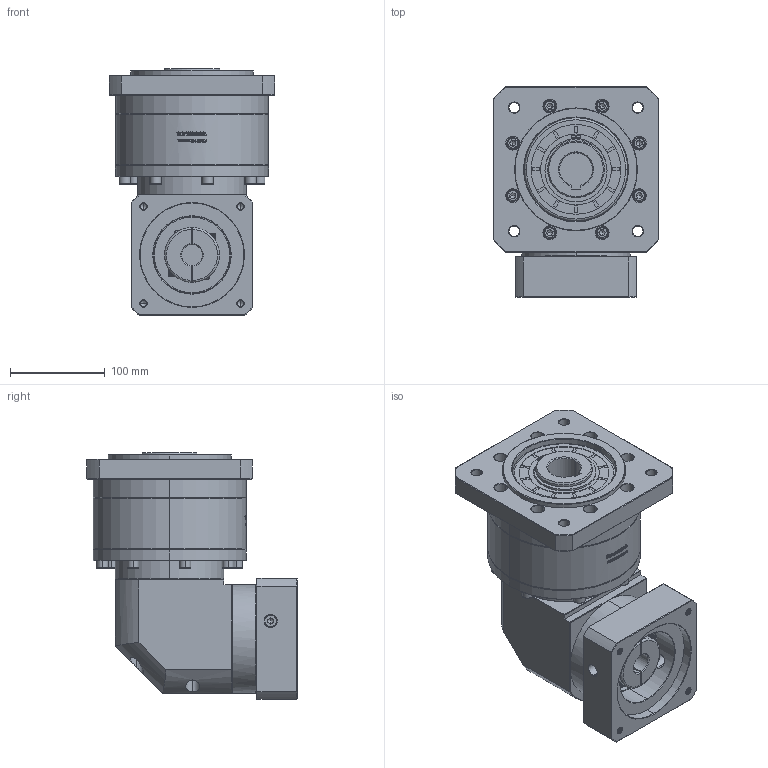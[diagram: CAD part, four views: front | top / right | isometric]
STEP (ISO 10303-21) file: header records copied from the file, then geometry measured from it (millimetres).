
FILE_DESCRIPTION (( 'STEP AP214' ), '1' );
FILE_NAME ('ZFR160A-K35-L2-22-110-145-M8.step', '2023-03-25T01:58:44', ( '' ), ( '' ), 'SwSTEP 2.0', 'SolidWorks 2016', '' );
FILE_SCHEMA (( 'AUTOMOTIVE_DESIGN' ));
Length unit declared in the file: millimetre
Products named in the file (1): ZFR160A-K35-L2-22-110-145-M8
Bounding box: 175 x 222.4 x 261.2 mm (x, y, z)
Volume: 4742840.3 mm3; surface area: 340961.5 mm2
Topology: 6 solids, 6 shells, 2725 faces, 7122 edges, 4569 vertices
Faces by surface type: plane 1366, bspline 491, cylinder 459, cone 365, torus 44
Entity records: 143733 total; most frequent: CARTESIAN_POINT 50896, ORIENTED_EDGE 14140, DIRECTION 11207, EDGE_CURVE 7070, VERTEX_POINT 4569, LINE 4443, VECTOR 4443, AXIS2_PLACEMENT_3D 3382
